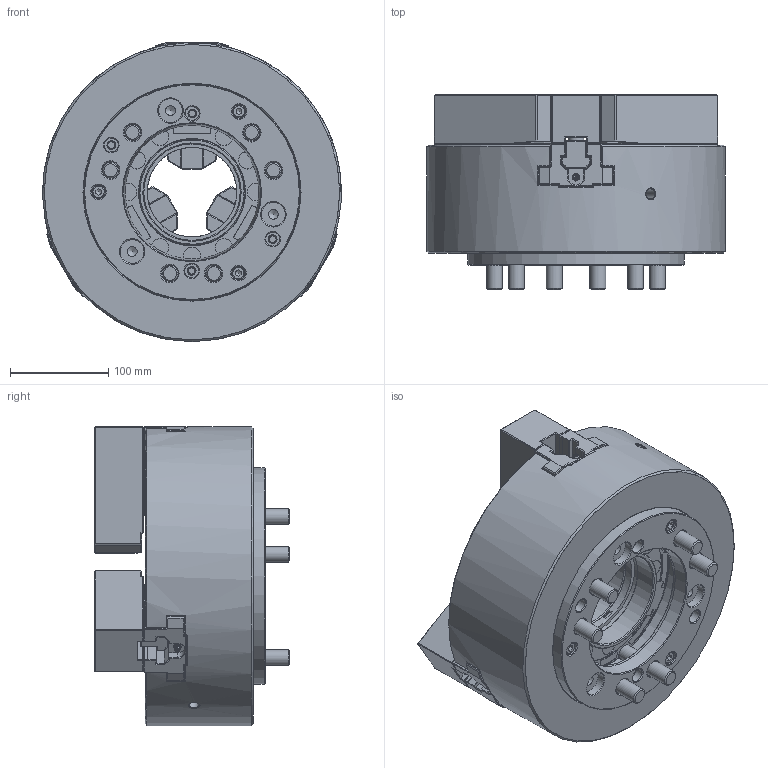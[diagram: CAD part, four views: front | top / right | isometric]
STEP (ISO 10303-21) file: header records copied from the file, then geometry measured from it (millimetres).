
FILE_DESCRIPTION(/* description */ (''),/* implementation_level */ '2;1');
FILE_NAME(/* name */ 'C:\Users\034\Desktop\需重新取代\OP-212-A8.stp',/* time_stamp */ '2024-09-04T09:16:08+08:00',/* author */ ('034'),/* organization */ (''),/* preprocessor_version */ 'ST-DEVELOPER v16.13',/* originating_system */ 'Autodesk Inventor 2018',/* authorisation */ '');
FILE_SCHEMA (('AUTOMOTIVE_DESIGN { 1 0 10303 214 3 1 1 }'));
Products named in the file (1): 零件10
Bounding box: 304 x 198.19 x 304.28 mm (x, y, z)
Volume: 7819429 mm3; surface area: 612559.3 mm2
Topology: 1 solids, 23 shells, 6623 faces, 21571 edges, 13742 vertices
Faces by surface type: plane 4152, cylinder 1744, bspline 395, cone 244, torus 85, sphere 3
Full cylindrical faces by diameter (mm): 3.8 x12, 4 x6, 5.1 x3, 5.2 x3, 6 x6, 6.5 x3, 6.8 x7, 8 x3, 9 x3, 10.3 x8, 10.5 x3, 11 x3, 13 x3, 14 x7, 16 x18, 17 x18, 24 x12, 24.2 x3, 25 x6, 26 x6, 91 x1, 91.2 x1, 94.5 x1, 95.9 x1, 96.2 x1, 98 x1, 99.374 x3, 108 x1, 136.1 x1, 220 x2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
Entity records: 237457 total; most frequent: CARTESIAN_POINT 49126, ORIENTED_EDGE 42162, DIRECTION 36578, EDGE_CURVE 21081, LINE 15950, VECTOR 15950, VERTEX_POINT 13601, AXIS2_PLACEMENT_3D 10314
